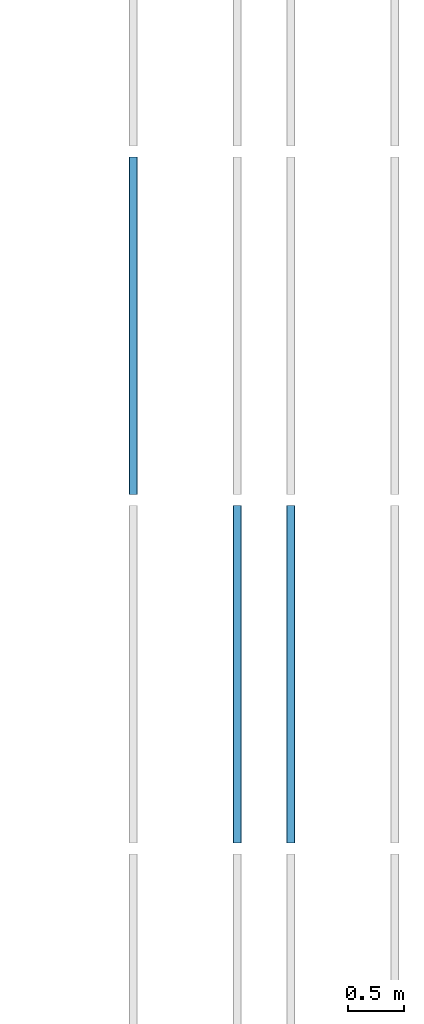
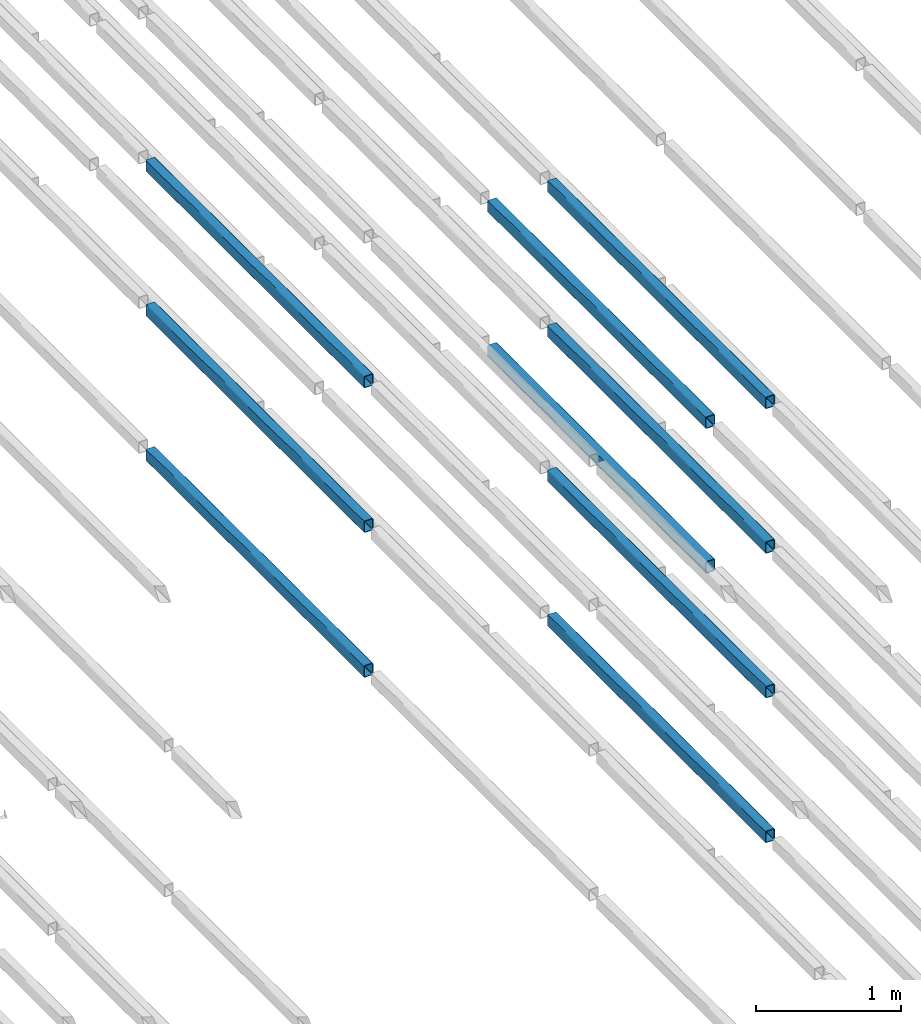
# One storey, part 69 of 290: 9 beams.
"""IFC2X3 building model written with IfcOpenShell, lengths in metres."""

from ifc_helpers import new_model, entity, si_unit, converted_unit, derived_unit, direction, frame, frame_2d, origin, place, context, subcontext, project, spatial, polyline, circle_curve, parameter, trimmed, segment, composite_curve, outline, extrude, material, type_object, element, save


model = new_model("IFC2X3")

# Units and contexts
model_context = context("Model", 3, precision=1e-05, world=origin(), true_north=direction((6.12303176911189e-17, 1.0)))
body_context = subcontext(model_context, "Body", "Model", "MODEL_VIEW")
ifc_project = project(units=[si_unit("LENGTHUNIT", "METRE"), si_unit("AREAUNIT", "SQUARE_METRE"), si_unit("VOLUMEUNIT", "CUBIC_METRE"), converted_unit("PLANEANGLEUNIT", "DEGREE", entity("IfcRatioMeasure", 0.0174532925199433), si_unit("PLANEANGLEUNIT", "RADIAN"), dimensions=[0, 0, 0, 0, 0, 0, 0]), si_unit("MASSUNIT", "GRAM", prefix="KILO"), derived_unit("MASSDENSITYUNIT", [(si_unit("MASSUNIT", "GRAM", prefix="KILO"), 1), (si_unit("LENGTHUNIT", "METRE"), -3)]), derived_unit("MOMENTOFINERTIAUNIT", [(si_unit("LENGTHUNIT", "METRE"), 4)]), si_unit("TIMEUNIT", "SECOND"), si_unit("FREQUENCYUNIT", "HERTZ"), si_unit("THERMODYNAMICTEMPERATUREUNIT", "DEGREE_CELSIUS"), derived_unit("THERMALTRANSMITTANCEUNIT", [(si_unit("MASSUNIT", "GRAM", prefix="KILO"), 1), (si_unit("THERMODYNAMICTEMPERATUREUNIT", "KELVIN"), -1), (si_unit("TIMEUNIT", "SECOND"), -3)]), derived_unit("VOLUMETRICFLOWRATEUNIT", [(si_unit("LENGTHUNIT", "METRE"), 3), (si_unit("TIMEUNIT", "SECOND"), -1)]), si_unit("ELECTRICCURRENTUNIT", "AMPERE"), si_unit("ELECTRICVOLTAGEUNIT", "VOLT"), si_unit("POWERUNIT", "WATT"), si_unit("FORCEUNIT", "NEWTON", prefix="KILO"), si_unit("ILLUMINANCEUNIT", "LUX"), si_unit("LUMINOUSFLUXUNIT", "LUMEN"), si_unit("LUMINOUSINTENSITYUNIT", "CANDELA"), derived_unit("USERDEFINED", [(si_unit("MASSUNIT", "GRAM", prefix="KILO"), -1), (si_unit("LENGTHUNIT", "METRE"), -2), (si_unit("TIMEUNIT", "SECOND"), 3), (si_unit("LUMINOUSFLUXUNIT", "LUMEN"), 1)]), derived_unit("LINEARVELOCITYUNIT", [(si_unit("LENGTHUNIT", "METRE"), 1), (si_unit("TIMEUNIT", "SECOND"), -1)]), si_unit("PRESSUREUNIT", "PASCAL"), derived_unit("USERDEFINED", [(si_unit("LENGTHUNIT", "METRE"), -2), (si_unit("MASSUNIT", "GRAM", prefix="KILO"), 1), (si_unit("TIMEUNIT", "SECOND"), -2)]), derived_unit("LINEARFORCEUNIT", [(si_unit("MASSUNIT", "GRAM", prefix="KILO"), 1), (si_unit("LENGTHUNIT", "METRE"), 1), (si_unit("TIMEUNIT", "SECOND"), -2), (si_unit("LENGTHUNIT", "METRE"), -1)]), derived_unit("PLANARFORCEUNIT", [(si_unit("MASSUNIT", "GRAM", prefix="KILO"), 1), (si_unit("LENGTHUNIT", "METRE"), 1), (si_unit("TIMEUNIT", "SECOND"), -2), (si_unit("LENGTHUNIT", "METRE"), -2)])], contexts=[model_context])

# Site, building, storey
site_placement = place(None, origin())
site = spatial("IfcSite", under=ifc_project, at=site_placement, Name="Default", CompositionType="ELEMENT")
building_placement = place(site_placement, origin())
building = spatial("IfcBuilding", under=site, at=building_placement, CompositionType="ELEMENT")
storey_placement = place(building_placement, frame((0.0, 0.0, 4.0)))
storey = spatial("IfcBuildingStorey", under=building, at=storey_placement, Name="01_OG", CompositionType="ELEMENT", Elevation=4.0)

# Beams
ifc_material = material(Name="Metall - Baustahl S235 blau")
beam_type = type_object("IfcBeamType", Name="RHS Träger (EN 10219-2):RHS 100 x 75 x 5", PredefinedType="NOTDEFINED")
beam_1_placement = place(storey_placement, frame((-184.165111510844, 30.248088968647, 1.23), z_axis=(0.0, 0.0, 1.0), x_axis=(0.0, 1.0, 0.0)))
element("IfcBeam", 1, at=beam_1_placement, inside=storey, type_object=beam_type, material=ifc_material, Name="RHS Träger (EN 10219-2):RHS 100 x 75 x 5", ObjectType="RHS Träger (EN 10219-2):RHS 100 x 75 x 5", context=body_context, shape_type="SweptSolid", body=[
    extrude(outline(composite_curve([segment(polyline([(-0.0399999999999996, -0.0374999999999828), (0.0399999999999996, -0.0374999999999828)]), True, "CONTINUOUS"), segment(trimmed(circle_curve(frame_2d((0.0399999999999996, -0.0274999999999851), x_axis=(0.0, 1.0)), 0.01), [parameter(180.0)], [parameter(270.0)], True, "PARAMETER"), True, "CONTINUOUS"), segment(polyline([(0.0500000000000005, -0.0274999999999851), (0.0500000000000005, 0.0274999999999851)]), True, "CONTINUOUS"), segment(trimmed(circle_curve(frame_2d((0.0399999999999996, 0.0274999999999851), x_axis=(0.0, 1.0)), 0.01), [parameter(270.0)], [parameter(4.07110999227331e-13)], True, "PARAMETER"), True, "CONTINUOUS"), segment(polyline([(0.0399999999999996, 0.0375000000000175), (-0.0399999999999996, 0.0375000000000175)]), True, "CONTINUOUS"), segment(trimmed(circle_curve(frame_2d((-0.0399999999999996, 0.0274999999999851), x_axis=(0.0, 1.0)), 0.01), [parameter(360.0)], [parameter(90.0000000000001)], True, "PARAMETER"), True, "CONTINUOUS"), segment(polyline([(-0.0499999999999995, 0.0274999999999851), (-0.0499999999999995, -0.0274999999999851)]), True, "CONTINUOUS"), segment(trimmed(circle_curve(frame_2d((-0.0399999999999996, -0.0274999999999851), x_axis=(0.0, 1.0)), 0.01), [parameter(90.0000000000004)], [parameter(180.0)], True, "PARAMETER"), True, "CONTINUOUS")], self_intersect=False), holes=[composite_curve([segment(trimmed(circle_curve(frame_2d((-0.0400000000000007, 0.0274999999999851), x_axis=(0.0, 1.0)), 0.005), [parameter(360.0)], [parameter(89.9999999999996)], True, "PARAMETER"), False, "CONTINUOUS"), segment(polyline([(-0.0400000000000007, 0.0325000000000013), (0.0399999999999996, 0.0325000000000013)]), True, "CONTINUOUS"), segment(trimmed(circle_curve(frame_2d((0.0399999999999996, 0.0274999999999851), x_axis=(0.0, 1.0)), 0.005), [parameter(270.0)], [parameter(0.0)], True, "PARAMETER"), False, "CONTINUOUS"), segment(polyline([(0.0449999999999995, 0.0274999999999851), (0.0449999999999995, -0.0274999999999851)]), True, "CONTINUOUS"), segment(trimmed(circle_curve(frame_2d((0.0399999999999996, -0.0274999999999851), x_axis=(0.0, 1.0)), 0.005), [parameter(180.0)], [parameter(269.999999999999)], True, "PARAMETER"), False, "CONTINUOUS"), segment(polyline([(0.0399999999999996, -0.0325000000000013), (-0.0400000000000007, -0.0325000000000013)]), True, "CONTINUOUS"), segment(trimmed(circle_curve(frame_2d((-0.0400000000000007, -0.0274999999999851), x_axis=(0.0, 1.0)), 0.005), [parameter(90.0000000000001)], [parameter(180.0)], True, "PARAMETER"), False, "CONTINUOUS"), segment(polyline([(-0.0450000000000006, -0.0274999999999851), (-0.0450000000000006, 0.0274999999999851)]), True, "CONTINUOUS")], self_intersect=False)]), frame((9.99999999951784e-05, -0.0375000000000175, -0.0500000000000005), z_axis=(1.0, 0.0, 0.0), x_axis=(0.0, 0.0, -1.0)), (0.0, 0.0, 1.0), 2.9998),
])
beam_2_placement = place(storey_placement, frame((-184.165111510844, 30.248088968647, 2.445), z_axis=(0.0, 0.0, 1.0), x_axis=(0.0, 1.0, 0.0)))
element("IfcBeam", 2, at=beam_2_placement, inside=storey, type_object=beam_type, material=ifc_material, Name="RHS Träger (EN 10219-2):RHS 100 x 75 x 5", ObjectType="RHS Träger (EN 10219-2):RHS 100 x 75 x 5", context=body_context, shape_type="SweptSolid", body=[
    extrude(outline(composite_curve([segment(polyline([(-0.0399999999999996, -0.0374999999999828), (0.0399999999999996, -0.0374999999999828)]), True, "CONTINUOUS"), segment(trimmed(circle_curve(frame_2d((0.0399999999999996, -0.0274999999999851), x_axis=(0.0, 1.0)), 0.01), [parameter(180.0)], [parameter(270.0)], True, "PARAMETER"), True, "CONTINUOUS"), segment(polyline([(0.0500000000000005, -0.0274999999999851), (0.0500000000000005, 0.0274999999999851)]), True, "CONTINUOUS"), segment(trimmed(circle_curve(frame_2d((0.0399999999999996, 0.0274999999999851), x_axis=(0.0, 1.0)), 0.01), [parameter(270.0)], [parameter(4.07110999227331e-13)], True, "PARAMETER"), True, "CONTINUOUS"), segment(polyline([(0.0399999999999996, 0.0375000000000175), (-0.0399999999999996, 0.0375000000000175)]), True, "CONTINUOUS"), segment(trimmed(circle_curve(frame_2d((-0.0399999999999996, 0.0274999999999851), x_axis=(0.0, 1.0)), 0.01), [parameter(360.0)], [parameter(90.0000000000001)], True, "PARAMETER"), True, "CONTINUOUS"), segment(polyline([(-0.0499999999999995, 0.0274999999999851), (-0.0499999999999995, -0.0274999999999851)]), True, "CONTINUOUS"), segment(trimmed(circle_curve(frame_2d((-0.0399999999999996, -0.0274999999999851), x_axis=(0.0, 1.0)), 0.01), [parameter(90.0000000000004)], [parameter(180.0)], True, "PARAMETER"), True, "CONTINUOUS")], self_intersect=False), holes=[composite_curve([segment(trimmed(circle_curve(frame_2d((-0.0400000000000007, 0.0274999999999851), x_axis=(0.0, 1.0)), 0.005), [parameter(360.0)], [parameter(89.9999999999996)], True, "PARAMETER"), False, "CONTINUOUS"), segment(polyline([(-0.0400000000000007, 0.0325000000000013), (0.0399999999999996, 0.0325000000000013)]), True, "CONTINUOUS"), segment(trimmed(circle_curve(frame_2d((0.0399999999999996, 0.0274999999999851), x_axis=(0.0, 1.0)), 0.005), [parameter(270.0)], [parameter(0.0)], True, "PARAMETER"), False, "CONTINUOUS"), segment(polyline([(0.0449999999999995, 0.0274999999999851), (0.0449999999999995, -0.0274999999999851)]), True, "CONTINUOUS"), segment(trimmed(circle_curve(frame_2d((0.0399999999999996, -0.0274999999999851), x_axis=(0.0, 1.0)), 0.005), [parameter(180.0)], [parameter(269.999999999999)], True, "PARAMETER"), False, "CONTINUOUS"), segment(polyline([(0.0399999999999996, -0.0325000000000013), (-0.0400000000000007, -0.0325000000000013)]), True, "CONTINUOUS"), segment(trimmed(circle_curve(frame_2d((-0.0400000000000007, -0.0274999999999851), x_axis=(0.0, 1.0)), 0.005), [parameter(90.0000000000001)], [parameter(180.0)], True, "PARAMETER"), False, "CONTINUOUS"), segment(polyline([(-0.0450000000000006, -0.0274999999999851), (-0.0450000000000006, 0.0274999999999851)]), True, "CONTINUOUS")], self_intersect=False)]), frame((9.99999999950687e-05, -0.0375000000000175, -0.0500000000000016), z_axis=(1.0, 0.0, 0.0), x_axis=(0.0, 0.0, -1.0)), (0.0, 0.0, 1.0), 2.9998),
])
beam_3_placement = place(storey_placement, frame((-183.615111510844, 30.248088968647, -1.2), z_axis=(0.0, 0.0, 1.0), x_axis=(0.0, 1.0, 0.0)))
element("IfcBeam", 3, at=beam_3_placement, inside=storey, type_object=beam_type, material=ifc_material, Name="RHS Träger (EN 10219-2):RHS 100 x 75 x 5", ObjectType="RHS Träger (EN 10219-2):RHS 100 x 75 x 5", context=body_context, shape_type="SweptSolid", body=[
    extrude(outline(composite_curve([segment(trimmed(circle_curve(frame_2d((-0.0274999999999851, -0.0400000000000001), x_axis=(1.0, 0.0)), 0.01), [parameter(180.0)], [parameter(270.0)], True, "PARAMETER"), True, "CONTINUOUS"), segment(polyline([(-0.0274999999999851, -0.05), (0.0274999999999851, -0.05)]), True, "CONTINUOUS"), segment(trimmed(circle_curve(frame_2d((0.0274999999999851, -0.0400000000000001), x_axis=(1.0, 0.0)), 0.01), [parameter(270.0)], [parameter(5.08888749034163e-14)], True, "PARAMETER"), True, "CONTINUOUS"), segment(polyline([(0.0375000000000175, -0.0400000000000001), (0.0375000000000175, 0.0400000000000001)]), True, "CONTINUOUS"), segment(trimmed(circle_curve(frame_2d((0.0274999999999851, 0.0400000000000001), x_axis=(1.0, 0.0)), 0.01), [parameter(360.0)], [parameter(89.9999999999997)], True, "PARAMETER"), True, "CONTINUOUS"), segment(polyline([(0.0274999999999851, 0.05), (-0.0274999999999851, 0.05)]), True, "CONTINUOUS"), segment(trimmed(circle_curve(frame_2d((-0.0274999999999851, 0.0400000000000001), x_axis=(1.0, 0.0)), 0.01), [parameter(90.0000000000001)], [parameter(180.0)], True, "PARAMETER"), True, "CONTINUOUS"), segment(polyline([(-0.0374999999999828, 0.0400000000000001), (-0.0374999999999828, -0.0400000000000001)]), True, "CONTINUOUS")], self_intersect=False), holes=[composite_curve([segment(polyline([(0.0274999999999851, -0.0450000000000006), (-0.0274999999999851, -0.0450000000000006)]), True, "CONTINUOUS"), segment(trimmed(circle_curve(frame_2d((-0.0274999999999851, -0.0400000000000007), x_axis=(1.0, 0.0)), 0.005), [parameter(180.0)], [parameter(270.0)], True, "PARAMETER"), False, "CONTINUOUS"), segment(polyline([(-0.0325000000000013, -0.0400000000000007), (-0.0325000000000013, 0.039999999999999)]), True, "CONTINUOUS"), segment(trimmed(circle_curve(frame_2d((-0.0274999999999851, 0.039999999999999), x_axis=(1.0, 0.0)), 0.005), [parameter(90.0000000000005)], [parameter(180.0)], True, "PARAMETER"), False, "CONTINUOUS"), segment(polyline([(-0.0274999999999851, 0.044999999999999), (0.0274999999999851, 0.044999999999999)]), True, "CONTINUOUS"), segment(trimmed(circle_curve(frame_2d((0.0274999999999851, 0.039999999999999), x_axis=(1.0, 0.0)), 0.005), [parameter(0.0)], [parameter(90.0000000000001)], True, "PARAMETER"), False, "CONTINUOUS"), segment(polyline([(0.0325000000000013, 0.039999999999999), (0.0325000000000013, -0.0400000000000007)]), True, "CONTINUOUS"), segment(trimmed(circle_curve(frame_2d((0.0274999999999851, -0.0400000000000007), x_axis=(1.0, 0.0)), 0.005), [parameter(270.0)], [parameter(4.07110999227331e-13)], True, "PARAMETER"), False, "CONTINUOUS")], self_intersect=False)]), frame((9.99999999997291e-05, 0.0375000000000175, -0.0500000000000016), z_axis=(1.0, 0.0, 0.0), x_axis=(0.0, -1.0, 0.0)), (0.0, 0.0, 1.0), 2.9998),
])
beam_4_placement = place(storey_placement, frame((-183.615111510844, 30.248088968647, 0.0150000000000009), z_axis=(0.0, 0.0, 1.0), x_axis=(0.0, 1.0, 0.0)))
element("IfcBeam", 4, at=beam_4_placement, inside=storey, type_object=beam_type, material=ifc_material, Name="RHS Träger (EN 10219-2):RHS 100 x 75 x 5", ObjectType="RHS Träger (EN 10219-2):RHS 100 x 75 x 5", context=body_context, shape_type="SweptSolid", body=[
    extrude(outline(composite_curve([segment(trimmed(circle_curve(frame_2d((-0.0274999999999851, -0.0400000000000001), x_axis=(1.0, 0.0)), 0.01), [parameter(180.0)], [parameter(270.0)], True, "PARAMETER"), True, "CONTINUOUS"), segment(polyline([(-0.0274999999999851, -0.05), (0.0274999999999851, -0.05)]), True, "CONTINUOUS"), segment(trimmed(circle_curve(frame_2d((0.0274999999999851, -0.0400000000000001), x_axis=(1.0, 0.0)), 0.01), [parameter(270.0)], [parameter(5.08888749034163e-14)], True, "PARAMETER"), True, "CONTINUOUS"), segment(polyline([(0.0375000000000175, -0.0400000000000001), (0.0375000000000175, 0.0400000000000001)]), True, "CONTINUOUS"), segment(trimmed(circle_curve(frame_2d((0.0274999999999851, 0.0400000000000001), x_axis=(1.0, 0.0)), 0.01), [parameter(360.0)], [parameter(89.9999999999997)], True, "PARAMETER"), True, "CONTINUOUS"), segment(polyline([(0.0274999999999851, 0.05), (-0.0274999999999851, 0.05)]), True, "CONTINUOUS"), segment(trimmed(circle_curve(frame_2d((-0.0274999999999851, 0.0400000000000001), x_axis=(1.0, 0.0)), 0.01), [parameter(90.0000000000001)], [parameter(180.0)], True, "PARAMETER"), True, "CONTINUOUS"), segment(polyline([(-0.0374999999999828, 0.0400000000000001), (-0.0374999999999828, -0.0400000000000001)]), True, "CONTINUOUS")], self_intersect=False), holes=[composite_curve([segment(polyline([(0.0274999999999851, -0.0450000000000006), (-0.0274999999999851, -0.0450000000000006)]), True, "CONTINUOUS"), segment(trimmed(circle_curve(frame_2d((-0.0274999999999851, -0.0400000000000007), x_axis=(1.0, 0.0)), 0.005), [parameter(180.0)], [parameter(270.0)], True, "PARAMETER"), False, "CONTINUOUS"), segment(polyline([(-0.0325000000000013, -0.0400000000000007), (-0.0325000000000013, 0.039999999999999)]), True, "CONTINUOUS"), segment(trimmed(circle_curve(frame_2d((-0.0274999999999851, 0.039999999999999), x_axis=(1.0, 0.0)), 0.005), [parameter(90.0000000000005)], [parameter(180.0)], True, "PARAMETER"), False, "CONTINUOUS"), segment(polyline([(-0.0274999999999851, 0.044999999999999), (0.0274999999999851, 0.044999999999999)]), True, "CONTINUOUS"), segment(trimmed(circle_curve(frame_2d((0.0274999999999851, 0.039999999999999), x_axis=(1.0, 0.0)), 0.005), [parameter(0.0)], [parameter(90.0000000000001)], True, "PARAMETER"), False, "CONTINUOUS"), segment(polyline([(0.0325000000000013, 0.039999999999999), (0.0325000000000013, -0.0400000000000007)]), True, "CONTINUOUS"), segment(trimmed(circle_curve(frame_2d((0.0274999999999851, -0.0400000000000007), x_axis=(1.0, 0.0)), 0.005), [parameter(270.0)], [parameter(4.07110999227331e-13)], True, "PARAMETER"), False, "CONTINUOUS")], self_intersect=False)]), frame((9.99999999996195e-05, 0.0375000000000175, -0.0500000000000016), z_axis=(1.0, 0.0, 0.0), x_axis=(0.0, -1.0, 0.0)), (0.0, 0.0, 1.0), 2.9998),
])
beam_5_placement = place(storey_placement, frame((-183.615111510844, 30.248088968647, 1.23), z_axis=(0.0, 0.0, 1.0), x_axis=(0.0, 1.0, 0.0)))
element("IfcBeam", 5, at=beam_5_placement, inside=storey, type_object=beam_type, material=ifc_material, Name="RHS Träger (EN 10219-2):RHS 100 x 75 x 5", ObjectType="RHS Träger (EN 10219-2):RHS 100 x 75 x 5", context=body_context, shape_type="SweptSolid", body=[
    extrude(outline(composite_curve([segment(trimmed(circle_curve(frame_2d((-0.0274999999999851, -0.0399999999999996), x_axis=(1.0, 0.0)), 0.01), [parameter(180.0)], [parameter(270.0)], True, "PARAMETER"), True, "CONTINUOUS"), segment(polyline([(-0.0274999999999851, -0.0499999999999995), (0.0274999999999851, -0.0499999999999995)]), True, "CONTINUOUS"), segment(trimmed(circle_curve(frame_2d((0.0274999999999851, -0.0399999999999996), x_axis=(1.0, 0.0)), 0.01), [parameter(270.0)], [parameter(5.08888749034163e-14)], True, "PARAMETER"), True, "CONTINUOUS"), segment(polyline([(0.0375000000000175, -0.0399999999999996), (0.0375000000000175, 0.0399999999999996)]), True, "CONTINUOUS"), segment(trimmed(circle_curve(frame_2d((0.0274999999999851, 0.0399999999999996), x_axis=(1.0, 0.0)), 0.01), [parameter(360.0)], [parameter(89.9999999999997)], True, "PARAMETER"), True, "CONTINUOUS"), segment(polyline([(0.0274999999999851, 0.0500000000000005), (-0.0274999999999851, 0.0500000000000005)]), True, "CONTINUOUS"), segment(trimmed(circle_curve(frame_2d((-0.0274999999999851, 0.0399999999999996), x_axis=(1.0, 0.0)), 0.01), [parameter(90.0000000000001)], [parameter(180.0)], True, "PARAMETER"), True, "CONTINUOUS"), segment(polyline([(-0.0374999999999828, 0.0399999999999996), (-0.0374999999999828, -0.0399999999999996)]), True, "CONTINUOUS")], self_intersect=False), holes=[composite_curve([segment(polyline([(0.0274999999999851, -0.0450000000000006), (-0.0274999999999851, -0.0450000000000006)]), True, "CONTINUOUS"), segment(trimmed(circle_curve(frame_2d((-0.0274999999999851, -0.0400000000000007), x_axis=(1.0, 0.0)), 0.005), [parameter(180.0)], [parameter(270.0)], True, "PARAMETER"), False, "CONTINUOUS"), segment(polyline([(-0.0325000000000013, -0.0400000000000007), (-0.0325000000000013, 0.0399999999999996)]), True, "CONTINUOUS"), segment(trimmed(circle_curve(frame_2d((-0.0274999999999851, 0.0399999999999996), x_axis=(1.0, 0.0)), 0.005), [parameter(90.0000000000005)], [parameter(180.0)], True, "PARAMETER"), False, "CONTINUOUS"), segment(polyline([(-0.0274999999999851, 0.0449999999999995), (0.0274999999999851, 0.0449999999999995)]), True, "CONTINUOUS"), segment(trimmed(circle_curve(frame_2d((0.0274999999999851, 0.0399999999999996), x_axis=(1.0, 0.0)), 0.005), [parameter(0.0)], [parameter(90.0000000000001)], True, "PARAMETER"), False, "CONTINUOUS"), segment(polyline([(0.0325000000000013, 0.0399999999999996), (0.0325000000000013, -0.0400000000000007)]), True, "CONTINUOUS"), segment(trimmed(circle_curve(frame_2d((0.0274999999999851, -0.0400000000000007), x_axis=(1.0, 0.0)), 0.005), [parameter(270.0)], [parameter(4.07110999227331e-13)], True, "PARAMETER"), False, "CONTINUOUS")], self_intersect=False)]), frame((9.99999999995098e-05, 0.0375000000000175, -0.0500000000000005), z_axis=(1.0, 0.0, 0.0), x_axis=(0.0, -1.0, 0.0)), (0.0, 0.0, 1.0), 2.9998),
])
beam_6_placement = place(storey_placement, frame((-183.615111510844, 30.248088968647, 2.445), z_axis=(0.0, 0.0, 1.0), x_axis=(0.0, 1.0, 0.0)))
element("IfcBeam", 6, at=beam_6_placement, inside=storey, type_object=beam_type, material=ifc_material, Name="RHS Träger (EN 10219-2):RHS 100 x 75 x 5", ObjectType="RHS Träger (EN 10219-2):RHS 100 x 75 x 5", context=body_context, shape_type="SweptSolid", body=[
    extrude(outline(composite_curve([segment(trimmed(circle_curve(frame_2d((-0.0274999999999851, -0.0399999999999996), x_axis=(1.0, 0.0)), 0.01), [parameter(180.0)], [parameter(270.0)], True, "PARAMETER"), True, "CONTINUOUS"), segment(polyline([(-0.0274999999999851, -0.0499999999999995), (0.0274999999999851, -0.0499999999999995)]), True, "CONTINUOUS"), segment(trimmed(circle_curve(frame_2d((0.0274999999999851, -0.0399999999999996), x_axis=(1.0, 0.0)), 0.01), [parameter(270.0)], [parameter(5.08888749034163e-14)], True, "PARAMETER"), True, "CONTINUOUS"), segment(polyline([(0.0375000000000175, -0.0399999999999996), (0.0375000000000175, 0.0399999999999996)]), True, "CONTINUOUS"), segment(trimmed(circle_curve(frame_2d((0.0274999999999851, 0.0399999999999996), x_axis=(1.0, 0.0)), 0.01), [parameter(360.0)], [parameter(89.9999999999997)], True, "PARAMETER"), True, "CONTINUOUS"), segment(polyline([(0.0274999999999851, 0.0500000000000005), (-0.0274999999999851, 0.0500000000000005)]), True, "CONTINUOUS"), segment(trimmed(circle_curve(frame_2d((-0.0274999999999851, 0.0399999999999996), x_axis=(1.0, 0.0)), 0.01), [parameter(90.0000000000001)], [parameter(180.0)], True, "PARAMETER"), True, "CONTINUOUS"), segment(polyline([(-0.0374999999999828, 0.0399999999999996), (-0.0374999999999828, -0.0399999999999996)]), True, "CONTINUOUS")], self_intersect=False), holes=[composite_curve([segment(polyline([(0.0274999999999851, -0.0450000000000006), (-0.0274999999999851, -0.0450000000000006)]), True, "CONTINUOUS"), segment(trimmed(circle_curve(frame_2d((-0.0274999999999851, -0.0400000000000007), x_axis=(1.0, 0.0)), 0.005), [parameter(180.0)], [parameter(270.0)], True, "PARAMETER"), False, "CONTINUOUS"), segment(polyline([(-0.0325000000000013, -0.0400000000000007), (-0.0325000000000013, 0.0399999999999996)]), True, "CONTINUOUS"), segment(trimmed(circle_curve(frame_2d((-0.0274999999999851, 0.0399999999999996), x_axis=(1.0, 0.0)), 0.005), [parameter(90.0000000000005)], [parameter(180.0)], True, "PARAMETER"), False, "CONTINUOUS"), segment(polyline([(-0.0274999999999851, 0.0449999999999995), (0.0274999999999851, 0.0449999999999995)]), True, "CONTINUOUS"), segment(trimmed(circle_curve(frame_2d((0.0274999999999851, 0.0399999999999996), x_axis=(1.0, 0.0)), 0.005), [parameter(0.0)], [parameter(90.0000000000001)], True, "PARAMETER"), False, "CONTINUOUS"), segment(polyline([(0.0325000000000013, 0.0399999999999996), (0.0325000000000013, -0.0400000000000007)]), True, "CONTINUOUS"), segment(trimmed(circle_curve(frame_2d((0.0274999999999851, -0.0400000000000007), x_axis=(1.0, 0.0)), 0.005), [parameter(270.0)], [parameter(4.07110999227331e-13)], True, "PARAMETER"), False, "CONTINUOUS")], self_intersect=False)]), frame((9.99999999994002e-05, 0.0375000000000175, -0.0500000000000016), z_axis=(1.0, 0.0, 0.0), x_axis=(0.0, -1.0, 0.0)), (0.0, 0.0, 1.0), 2.9998),
])
beam_7_placement = place(storey_placement, frame((-185.015111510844, 33.348088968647, -1.2), z_axis=(0.0, 0.0, 1.0), x_axis=(0.0, 1.0, 0.0)))
element("IfcBeam", 7, at=beam_7_placement, inside=storey, type_object=beam_type, material=ifc_material, Name="RHS Träger (EN 10219-2):RHS 100 x 75 x 5", ObjectType="RHS Träger (EN 10219-2):RHS 100 x 75 x 5", context=body_context, shape_type="SweptSolid", body=[
    extrude(outline(composite_curve([segment(trimmed(circle_curve(frame_2d((-0.0274999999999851, -0.0400000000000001), x_axis=(1.0, 0.0)), 0.01), [parameter(180.0)], [parameter(270.0)], True, "PARAMETER"), True, "CONTINUOUS"), segment(polyline([(-0.0274999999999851, -0.05), (0.0274999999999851, -0.05)]), True, "CONTINUOUS"), segment(trimmed(circle_curve(frame_2d((0.0274999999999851, -0.0400000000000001), x_axis=(1.0, 0.0)), 0.01), [parameter(270.0)], [parameter(5.08888749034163e-14)], True, "PARAMETER"), True, "CONTINUOUS"), segment(polyline([(0.0375000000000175, -0.0400000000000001), (0.0375000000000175, 0.0400000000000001)]), True, "CONTINUOUS"), segment(trimmed(circle_curve(frame_2d((0.0274999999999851, 0.0400000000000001), x_axis=(1.0, 0.0)), 0.01), [parameter(360.0)], [parameter(89.9999999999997)], True, "PARAMETER"), True, "CONTINUOUS"), segment(polyline([(0.0274999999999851, 0.05), (-0.0274999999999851, 0.05)]), True, "CONTINUOUS"), segment(trimmed(circle_curve(frame_2d((-0.0274999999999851, 0.0400000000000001), x_axis=(1.0, 0.0)), 0.01), [parameter(90.0000000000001)], [parameter(180.0)], True, "PARAMETER"), True, "CONTINUOUS"), segment(polyline([(-0.0374999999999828, 0.0400000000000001), (-0.0374999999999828, -0.0400000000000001)]), True, "CONTINUOUS")], self_intersect=False), holes=[composite_curve([segment(polyline([(0.0274999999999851, -0.0450000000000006), (-0.0274999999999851, -0.0450000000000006)]), True, "CONTINUOUS"), segment(trimmed(circle_curve(frame_2d((-0.0274999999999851, -0.0400000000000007), x_axis=(1.0, 0.0)), 0.005), [parameter(180.0)], [parameter(270.0)], True, "PARAMETER"), False, "CONTINUOUS"), segment(polyline([(-0.0325000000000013, -0.0400000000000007), (-0.0325000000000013, 0.039999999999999)]), True, "CONTINUOUS"), segment(trimmed(circle_curve(frame_2d((-0.0274999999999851, 0.039999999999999), x_axis=(1.0, 0.0)), 0.005), [parameter(90.0000000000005)], [parameter(180.0)], True, "PARAMETER"), False, "CONTINUOUS"), segment(polyline([(-0.0274999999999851, 0.044999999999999), (0.0274999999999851, 0.044999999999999)]), True, "CONTINUOUS"), segment(trimmed(circle_curve(frame_2d((0.0274999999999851, 0.039999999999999), x_axis=(1.0, 0.0)), 0.005), [parameter(0.0)], [parameter(90.0000000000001)], True, "PARAMETER"), False, "CONTINUOUS"), segment(polyline([(0.0325000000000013, 0.039999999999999), (0.0325000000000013, -0.0400000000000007)]), True, "CONTINUOUS"), segment(trimmed(circle_curve(frame_2d((0.0274999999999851, -0.0400000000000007), x_axis=(1.0, 0.0)), 0.005), [parameter(270.0)], [parameter(4.07110999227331e-13)], True, "PARAMETER"), False, "CONTINUOUS")], self_intersect=False)]), frame((9.99999999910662e-05, 0.0375000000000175, -0.0500000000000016), z_axis=(1.0, 0.0, 0.0), x_axis=(0.0, -1.0, 0.0)), (0.0, 0.0, 1.0), 2.9998),
])
beam_8_placement = place(storey_placement, frame((-185.015111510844, 33.348088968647, 0.0150000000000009), z_axis=(0.0, 0.0, 1.0), x_axis=(0.0, 1.0, 0.0)))
element("IfcBeam", 8, at=beam_8_placement, inside=storey, type_object=beam_type, material=ifc_material, Name="RHS Träger (EN 10219-2):RHS 100 x 75 x 5", ObjectType="RHS Träger (EN 10219-2):RHS 100 x 75 x 5", context=body_context, shape_type="SweptSolid", body=[
    extrude(outline(composite_curve([segment(trimmed(circle_curve(frame_2d((-0.0274999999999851, -0.0400000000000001), x_axis=(1.0, 0.0)), 0.01), [parameter(180.0)], [parameter(270.0)], True, "PARAMETER"), True, "CONTINUOUS"), segment(polyline([(-0.0274999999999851, -0.05), (0.0274999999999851, -0.05)]), True, "CONTINUOUS"), segment(trimmed(circle_curve(frame_2d((0.0274999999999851, -0.0400000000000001), x_axis=(1.0, 0.0)), 0.01), [parameter(270.0)], [parameter(5.08888749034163e-14)], True, "PARAMETER"), True, "CONTINUOUS"), segment(polyline([(0.0375000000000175, -0.0400000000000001), (0.0375000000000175, 0.0400000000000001)]), True, "CONTINUOUS"), segment(trimmed(circle_curve(frame_2d((0.0274999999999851, 0.0400000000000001), x_axis=(1.0, 0.0)), 0.01), [parameter(360.0)], [parameter(89.9999999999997)], True, "PARAMETER"), True, "CONTINUOUS"), segment(polyline([(0.0274999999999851, 0.05), (-0.0274999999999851, 0.05)]), True, "CONTINUOUS"), segment(trimmed(circle_curve(frame_2d((-0.0274999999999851, 0.0400000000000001), x_axis=(1.0, 0.0)), 0.01), [parameter(90.0000000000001)], [parameter(180.0)], True, "PARAMETER"), True, "CONTINUOUS"), segment(polyline([(-0.0374999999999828, 0.0400000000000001), (-0.0374999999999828, -0.0400000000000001)]), True, "CONTINUOUS")], self_intersect=False), holes=[composite_curve([segment(polyline([(0.0274999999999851, -0.0450000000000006), (-0.0274999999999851, -0.0450000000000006)]), True, "CONTINUOUS"), segment(trimmed(circle_curve(frame_2d((-0.0274999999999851, -0.0400000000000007), x_axis=(1.0, 0.0)), 0.005), [parameter(180.0)], [parameter(270.0)], True, "PARAMETER"), False, "CONTINUOUS"), segment(polyline([(-0.0325000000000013, -0.0400000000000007), (-0.0325000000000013, 0.039999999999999)]), True, "CONTINUOUS"), segment(trimmed(circle_curve(frame_2d((-0.0274999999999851, 0.039999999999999), x_axis=(1.0, 0.0)), 0.005), [parameter(90.0000000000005)], [parameter(180.0)], True, "PARAMETER"), False, "CONTINUOUS"), segment(polyline([(-0.0274999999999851, 0.044999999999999), (0.0274999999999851, 0.044999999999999)]), True, "CONTINUOUS"), segment(trimmed(circle_curve(frame_2d((0.0274999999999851, 0.039999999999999), x_axis=(1.0, 0.0)), 0.005), [parameter(0.0)], [parameter(90.0000000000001)], True, "PARAMETER"), False, "CONTINUOUS"), segment(polyline([(0.0325000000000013, 0.039999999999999), (0.0325000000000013, -0.0400000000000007)]), True, "CONTINUOUS"), segment(trimmed(circle_curve(frame_2d((0.0274999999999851, -0.0400000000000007), x_axis=(1.0, 0.0)), 0.005), [parameter(270.0)], [parameter(4.07110999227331e-13)], True, "PARAMETER"), False, "CONTINUOUS")], self_intersect=False)]), frame((9.99999999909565e-05, 0.0375000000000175, -0.0500000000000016), z_axis=(1.0, 0.0, 0.0), x_axis=(0.0, -1.0, 0.0)), (0.0, 0.0, 1.0), 2.9998),
])
beam_9_placement = place(storey_placement, frame((-185.015111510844, 33.348088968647, 1.23), z_axis=(0.0, 0.0, 1.0), x_axis=(0.0, 1.0, 0.0)))
element("IfcBeam", 9, at=beam_9_placement, inside=storey, type_object=beam_type, material=ifc_material, Name="RHS Träger (EN 10219-2):RHS 100 x 75 x 5", ObjectType="RHS Träger (EN 10219-2):RHS 100 x 75 x 5", context=body_context, shape_type="SweptSolid", body=[
    extrude(outline(composite_curve([segment(trimmed(circle_curve(frame_2d((-0.0274999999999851, -0.0399999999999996), x_axis=(1.0, 0.0)), 0.01), [parameter(180.0)], [parameter(270.0)], True, "PARAMETER"), True, "CONTINUOUS"), segment(polyline([(-0.0274999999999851, -0.0499999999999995), (0.0274999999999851, -0.0499999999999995)]), True, "CONTINUOUS"), segment(trimmed(circle_curve(frame_2d((0.0274999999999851, -0.0399999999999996), x_axis=(1.0, 0.0)), 0.01), [parameter(270.0)], [parameter(5.08888749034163e-14)], True, "PARAMETER"), True, "CONTINUOUS"), segment(polyline([(0.0375000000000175, -0.0399999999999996), (0.0375000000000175, 0.0399999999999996)]), True, "CONTINUOUS"), segment(trimmed(circle_curve(frame_2d((0.0274999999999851, 0.0399999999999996), x_axis=(1.0, 0.0)), 0.01), [parameter(360.0)], [parameter(89.9999999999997)], True, "PARAMETER"), True, "CONTINUOUS"), segment(polyline([(0.0274999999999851, 0.0500000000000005), (-0.0274999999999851, 0.0500000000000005)]), True, "CONTINUOUS"), segment(trimmed(circle_curve(frame_2d((-0.0274999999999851, 0.0399999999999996), x_axis=(1.0, 0.0)), 0.01), [parameter(90.0000000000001)], [parameter(180.0)], True, "PARAMETER"), True, "CONTINUOUS"), segment(polyline([(-0.0374999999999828, 0.0399999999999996), (-0.0374999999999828, -0.0399999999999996)]), True, "CONTINUOUS")], self_intersect=False), holes=[composite_curve([segment(polyline([(0.0274999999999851, -0.0450000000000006), (-0.0274999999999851, -0.0450000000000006)]), True, "CONTINUOUS"), segment(trimmed(circle_curve(frame_2d((-0.0274999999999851, -0.0400000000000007), x_axis=(1.0, 0.0)), 0.005), [parameter(180.0)], [parameter(270.0)], True, "PARAMETER"), False, "CONTINUOUS"), segment(polyline([(-0.0325000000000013, -0.0400000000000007), (-0.0325000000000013, 0.0399999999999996)]), True, "CONTINUOUS"), segment(trimmed(circle_curve(frame_2d((-0.0274999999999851, 0.0399999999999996), x_axis=(1.0, 0.0)), 0.005), [parameter(90.0000000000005)], [parameter(180.0)], True, "PARAMETER"), False, "CONTINUOUS"), segment(polyline([(-0.0274999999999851, 0.0449999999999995), (0.0274999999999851, 0.0449999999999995)]), True, "CONTINUOUS"), segment(trimmed(circle_curve(frame_2d((0.0274999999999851, 0.0399999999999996), x_axis=(1.0, 0.0)), 0.005), [parameter(0.0)], [parameter(90.0000000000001)], True, "PARAMETER"), False, "CONTINUOUS"), segment(polyline([(0.0325000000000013, 0.0399999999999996), (0.0325000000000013, -0.0400000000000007)]), True, "CONTINUOUS"), segment(trimmed(circle_curve(frame_2d((0.0274999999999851, -0.0400000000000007), x_axis=(1.0, 0.0)), 0.005), [parameter(270.0)], [parameter(4.07110999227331e-13)], True, "PARAMETER"), False, "CONTINUOUS")], self_intersect=False)]), frame((9.99999999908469e-05, 0.0375000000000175, -0.0500000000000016), z_axis=(1.0, 0.0, 0.0), x_axis=(0.0, -1.0, 0.0)), (0.0, 0.0, 1.0), 2.9998),
])

save(model, "model.ifc")
